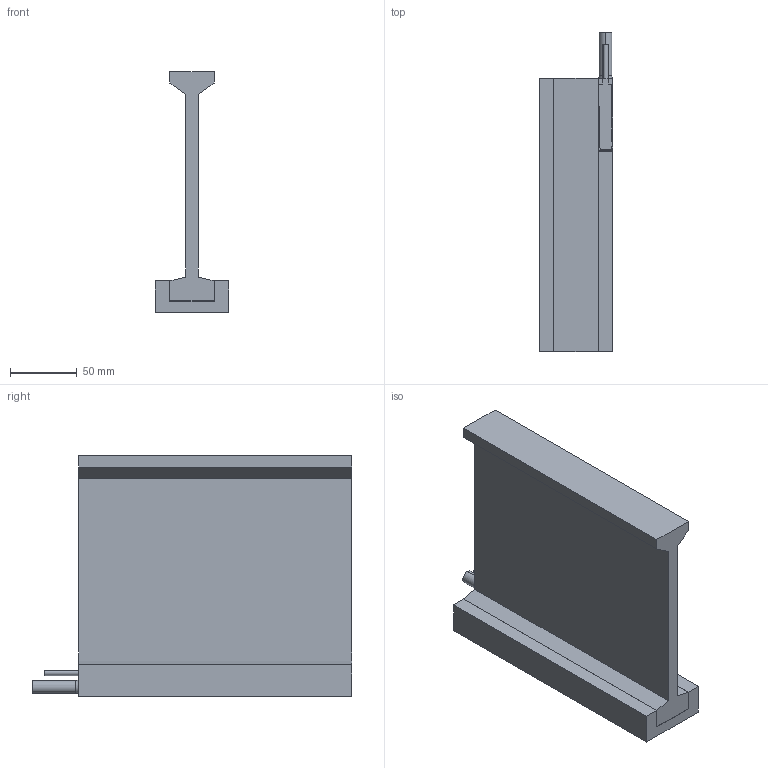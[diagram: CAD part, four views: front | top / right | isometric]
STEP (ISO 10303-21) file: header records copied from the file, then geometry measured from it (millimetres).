
FILE_DESCRIPTION (( 'STEP AP214' ), '1' );
FILE_NAME ('DX140F-C3.STEP', '2021-07-16T04:29:23', ( '' ), ( '' ), 'SwSTEP 2.0', 'SolidWorks 2020', '' );
FILE_SCHEMA (( 'AUTOMOTIVE_DESIGN' ));
Length unit declared in the file: millimetre
Products named in the file (6): DX140FH-X.X-ZZ-00 (CUSTOMER); HEX SHCS M3x0.5x12(S.S)_B18.3.1M - 3 x 0.5 x 12 Hex SHCS -- 12CHX; TIM-PC 8850FT-LV (DX140F)_C3; DX140F-C3; CBL_PWR_D10; DX140FCX01_C3 (CUSTOMER)
Assembly tree (6 placements, depth 2):
  DX140F-C3
    TIM-PC 8850FT-LV (DX140F)_C3
    DX140FCX01_C3 (CUSTOMER)
    HEX SHCS M3x0.5x12(S.S)_B18.3.1M - 3 x 0.5 x 12 Hex SHCS -- 12CHX  x2
    CBL_PWR_D10
    DX140FH-X.X-ZZ-00 (CUSTOMER)
Bounding box: 55 x 240 x 180.6 mm (x, y, z)
Volume: 635661.3 mm3; surface area: 145080.6 mm2
Topology: 8 solids, 8 shells, 221 faces, 537 edges, 325 vertices
Faces by surface type: plane 116, cylinder 65, cone 34, torus 6
Entity records: 5961 total; most frequent: DIRECTION 1001, CARTESIAN_POINT 950, ORIENTED_EDGE 910, EDGE_CURVE 455, AXIS2_PLACEMENT_3D 343, VECTOR 315, LINE 315, VERTEX_POINT 292
